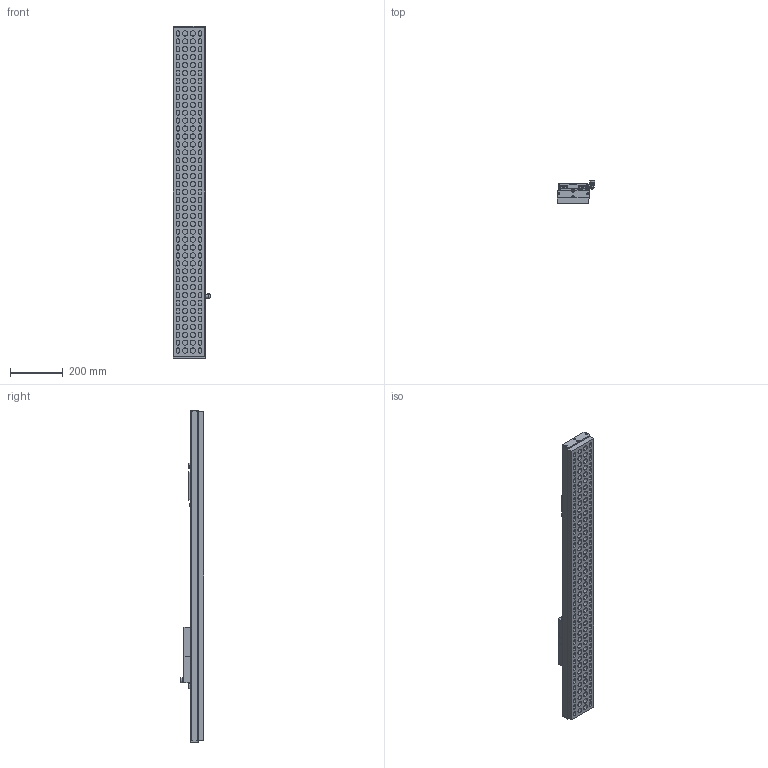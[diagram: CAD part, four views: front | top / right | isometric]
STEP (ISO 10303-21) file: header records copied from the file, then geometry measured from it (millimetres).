
FILE_DESCRIPTION (( 'STEP AP214' ), '1' );
FILE_NAME ('311 250 012.STEP', '2018-01-10T10:03:46', ( '' ), ( '' ), 'SwSTEP 2.0', 'SolidWorks 2017', '' );
FILE_SCHEMA (( 'AUTOMOTIVE_DESIGN' ));
Length unit declared in the file: millimetre
Products named in the file (1): 311 250 012
Bounding box: 142.75 x 89 x 1256 mm (x, y, z)
Volume: 7311452.6 mm3; surface area: 677886.9 mm2
Topology: 1 solids, 3 shells, 1461 faces, 3425 edges, 2192 vertices
Faces by surface type: cylinder 698, plane 585, torus 117, cone 48, sphere 7, bspline 6
Entity records: 58641 total; most frequent: DIRECTION 7907, CARTESIAN_POINT 7773, ORIENTED_EDGE 6820, EDGE_CURVE 3410, AXIS2_PLACEMENT_3D 3121, VERTEX_POINT 2183, EDGE_LOOP 1689, VECTOR 1665
